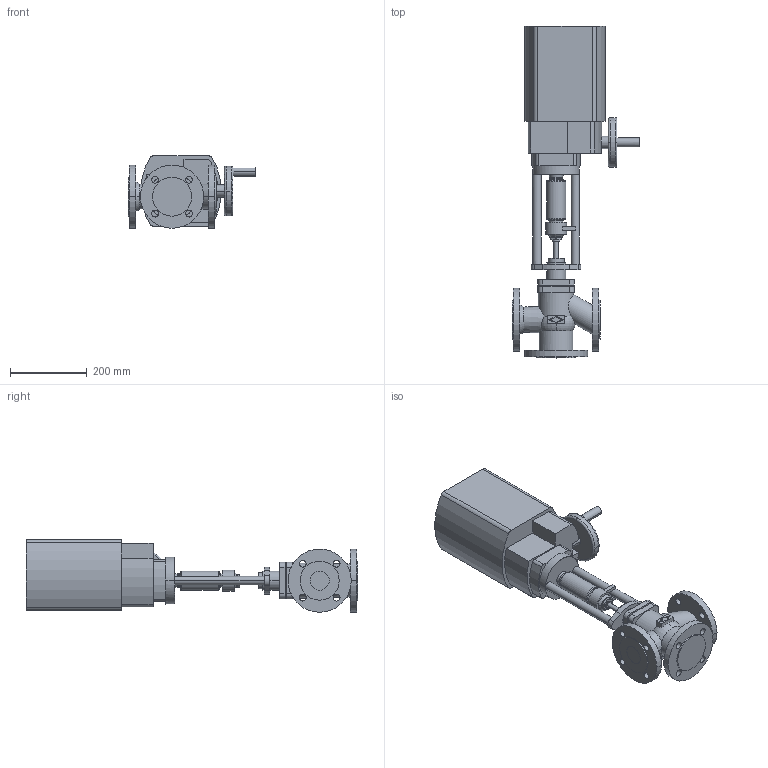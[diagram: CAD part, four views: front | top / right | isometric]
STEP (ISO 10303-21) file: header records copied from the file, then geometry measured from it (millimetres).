
FILE_DESCRIPTION( ( '' ), '1' );
FILE_NAME( 'F:/DE-SHS/TB/OR/04-Sonstiges/daten/files_3d/450-PREMIO-Plus-2G/c000006520.stp', '2017-02-22T12:50:51', ( '' ), ( '' ), ' ', ' ', ' ' );
FILE_SCHEMA( ( 'CONFIG_CONTROL_DESIGN' ) );
Length unit declared in the file: millimetre
Products named in the file (2): 1; 2
Bounding box: 334.05 x 867 x 189.3 mm (x, y, z)
Volume: 15474785 mm3; surface area: 696414.1 mm2
Topology: 2 solids, 2 shells, 240 faces, 605 edges, 397 vertices
Faces by surface type: cylinder 110, plane 103, torus 15, cone 12
Entity records: 7940 total; most frequent: CARTESIAN_POINT 1756, DIRECTION 1380, ORIENTED_EDGE 1210, EDGE_CURVE 605, AXIS2_PLACEMENT_3D 549, VERTEX_POINT 397, CIRCLE 305, EDGE_LOOP 292
